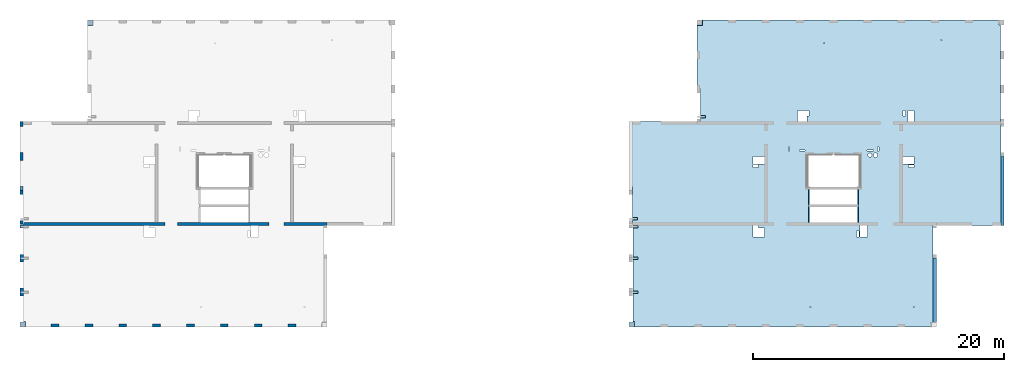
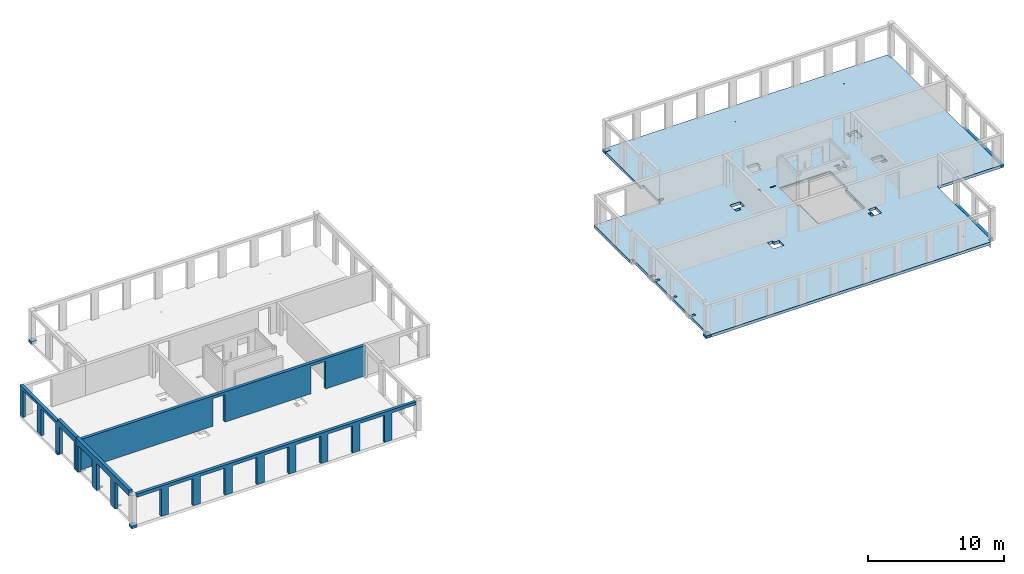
# One storey, part 2 of 8: 8 slabs, 4 walls, 53 openings.
"""IFC2X3 building model written with IfcOpenShell, lengths in millimetres."""

from ifc_helpers import new_model, entity, si_unit, converted_unit, derived_unit, direction, frame, frame_2d, origin, origin_2d_with_axis, place, context, subcontext, project, spatial, polyline, rectangle, circle, outline, extrude, material, layer, layer_set, layer_usage, type_object, element, save


model = new_model("IFC2X3")

# Units and contexts
model_context = context("Model", 3, precision=0.01, world=origin(), true_north=direction((6.12303176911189e-17, 1.0)))
body_context = subcontext(model_context, "Body", "Model", "MODEL_VIEW")
ifc_project = project(units=[si_unit("LENGTHUNIT", "METRE", prefix="MILLI"), si_unit("AREAUNIT", "SQUARE_METRE"), si_unit("VOLUMEUNIT", "CUBIC_METRE"), converted_unit("PLANEANGLEUNIT", "DEGREE", entity("IfcRatioMeasure", 0.0174532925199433), si_unit("PLANEANGLEUNIT", "RADIAN"), dimensions=[0, 0, 0, 0, 0, 0, 0]), si_unit("MASSUNIT", "GRAM", prefix="KILO"), derived_unit("MASSDENSITYUNIT", [(si_unit("MASSUNIT", "GRAM", prefix="KILO"), 1), (si_unit("LENGTHUNIT", "METRE"), -3)]), si_unit("TIMEUNIT", "SECOND"), si_unit("FREQUENCYUNIT", "HERTZ"), si_unit("THERMODYNAMICTEMPERATUREUNIT", "DEGREE_CELSIUS"), derived_unit("THERMALTRANSMITTANCEUNIT", [(si_unit("MASSUNIT", "GRAM", prefix="KILO"), 1), (si_unit("THERMODYNAMICTEMPERATUREUNIT", "KELVIN"), -1), (si_unit("TIMEUNIT", "SECOND"), -3)]), derived_unit("VOLUMETRICFLOWRATEUNIT", [(si_unit("LENGTHUNIT", "METRE"), 3), (si_unit("TIMEUNIT", "SECOND"), -1)]), si_unit("ELECTRICCURRENTUNIT", "AMPERE"), si_unit("ELECTRICVOLTAGEUNIT", "VOLT"), si_unit("POWERUNIT", "WATT"), si_unit("FORCEUNIT", "NEWTON", prefix="KILO"), si_unit("ILLUMINANCEUNIT", "LUX"), si_unit("LUMINOUSFLUXUNIT", "LUMEN"), si_unit("LUMINOUSINTENSITYUNIT", "CANDELA"), derived_unit("USERDEFINED", [(si_unit("MASSUNIT", "GRAM", prefix="KILO"), -1), (si_unit("LENGTHUNIT", "METRE"), -2), (si_unit("TIMEUNIT", "SECOND"), 3), (si_unit("LUMINOUSFLUXUNIT", "LUMEN"), 1)]), derived_unit("LINEARVELOCITYUNIT", [(si_unit("LENGTHUNIT", "METRE"), 1), (si_unit("TIMEUNIT", "SECOND"), -1)]), si_unit("PRESSUREUNIT", "PASCAL"), derived_unit("USERDEFINED", [(si_unit("LENGTHUNIT", "METRE"), -2), (si_unit("MASSUNIT", "GRAM", prefix="KILO"), 1), (si_unit("TIMEUNIT", "SECOND"), -2)])], contexts=[model_context])

# Site, building, storey
site_placement = place(None, origin())
site = spatial("IfcSite", under=ifc_project, at=site_placement, Name="Default", CompositionType="ELEMENT")
building_placement = place(site_placement, origin())
building = spatial("IfcBuilding", under=site, at=building_placement, Name="niet gebruiken", CompositionType="ELEMENT")
storey_placement = place(building_placement, frame((0.0, 0.0, 48240.0)))
storey = spatial("IfcBuildingStorey", under=building, at=storey_placement, Name="16 zestiende verdieping", CompositionType="ELEMENT", Elevation=48240.0)

# Slab, openings
ifc_material_1 = material(Name="NLRS_f2_beton ihwg")
ifc_layer_1 = layer(ifc_material_1, 250.0)
ifc_layer_set_1 = layer_set([ifc_layer_1], Name="Floor:NLRS_23.21_FL_beton ihwg d=250_gen")
ifc_layer_usage_1 = layer_usage(ifc_layer_set_1, "AXIS3", "POSITIVE", 0.0)
slab_1_placement = place(storey_placement, frame((75750.0, 28756.0, -340.0)))
slab_1 = element("IfcSlab", 1, at=slab_1_placement, inside=storey, material=ifc_layer_usage_1, Name="Floor:NLRS_23.21_FL_beton ihwg d=250_gen", ObjectType="Floor:NLRS_23.21_FL_beton ihwg d=250_gen", PredefinedType="FLOOR", context=body_context, shape_type="SweptSolid", body=[
    extrude(outline(polyline([(9119.99996701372, 12250.0), (-14540.0, 12250.0), (-14540.0, 11840.0), (-14680.0, 11840.0), (-14680.0, 4060.0), (-14700.0, 4060.0), (-14700.0, -4150.0), (-9300.0, -4150.0), (-9300.0, -11890.0), (-9140.0, -11890.0), (-9140.0, -12250.0), (14520.0, -12250.0), (14520.0, -11820.0), (14660.0, -11820.0), (14660.0, -4060.0), (14680.0, -4060.0), (14680.0, -1040.0), (14950.0, -1040.0), (14950.0, 4150.0), (9280.0, 4150.0), (9280.0, 6750.0), (9550.0, 6750.0), (9550.0, 11820.0), (9119.99996701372, 11820.0), (9119.99996701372, 12250.0)])), frame((14700.0, 12250.0, 250.0), z_axis=(0.0, 0.0, -1.0), x_axis=(-1.0, 0.0, 0.0)), (0.0, 0.0, 1.0), 250.000000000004),
])
opening_1_placement = place(storey_placement, frame((75750.0, 28756.0, -340.0)))
element("IfcOpeningElement", 2, at=opening_1_placement, cuts=slab_1, ObjectType="Opening", context=body_context, shape_type="SweptSolid", body=[
    extrude(circle(Radius=37.5, at=frame_2d((-7750.0, -10650.0), x_axis=(1.0, 0.0))), frame((14700.0, 12250.0, 250.0), z_axis=(0.0, 0.0, -1.0), x_axis=(-1.0, 0.0, 0.0)), (0.0, 0.0, 1.0), 250.000000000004),
])
opening_2_placement = place(storey_placement, frame((75750.0, 28756.0, -340.0)))
element("IfcOpeningElement", 3, at=opening_2_placement, cuts=slab_1, ObjectType="Opening", context=body_context, shape_type="SweptSolid", body=[
    extrude(circle(Radius=37.5, at=frame_2d((-9950.0, 10650.0), x_axis=(1.0, 0.0))), frame((14700.0, 12250.0, 250.0), z_axis=(0.0, 0.0, -1.0), x_axis=(-1.0, 0.0, 0.0)), (0.0, 0.0, 1.0), 250.000000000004),
])
opening_3_placement = place(storey_placement, frame((75750.0, 28756.0, -340.0)))
element("IfcOpeningElement", 4, at=opening_3_placement, cuts=slab_1, ObjectType="Opening", context=body_context, shape_type="SweptSolid", body=[
    extrude(circle(Radius=37.5, at=frame_2d((-600.0, 10400.0), x_axis=(1.0, 0.0))), frame((14700.0, 12250.0, 250.0), z_axis=(0.0, 0.0, -1.0), x_axis=(-1.0, 0.0, 0.0)), (0.0, 0.0, 1.0), 250.000000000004),
])
opening_4_placement = place(storey_placement, frame((75750.0, 28756.0, -340.0)))
element("IfcOpeningElement", 5, at=opening_4_placement, cuts=slab_1, ObjectType="Opening", context=body_context, shape_type="SweptSolid", body=[
    extrude(circle(Radius=37.5, at=frame_2d((500.0, -10650.0), x_axis=(1.0, 0.0))), frame((14700.0, 12250.0, 250.0), z_axis=(0.0, 0.0, -1.0), x_axis=(-1.0, 0.0, 0.0)), (0.0, 0.0, 1.0), 250.000000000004),
])
opening_5_placement = place(slab_1_placement, origin())
element("IfcOpeningElement", 6, at=opening_5_placement, cuts=slab_1, ObjectType="Opening", context=body_context, shape_type="SweptSolid", body=[
    extrude(rectangle(XDim=109.999999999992, YDim=1220.0, at=origin_2d_with_axis()), frame((14094.9999671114, 10380.0, 210.0)), (0.0, 0.0, 1.0), 39.9999999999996),
])
opening_6_placement = place(slab_1_placement, origin())
element("IfcOpeningElement", 7, at=opening_6_placement, cuts=slab_1, ObjectType="Opening", context=body_context, shape_type="SweptSolid", body=[
    extrude(rectangle(XDim=109.999999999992, YDim=1220.0, at=origin_2d_with_axis()), frame((18005.0, 10380.0, 210.0)), (0.0, 0.0, 1.0), 39.9999999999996),
])
opening_7_placement = place(slab_1_placement, origin())
element("IfcOpeningElement", 8, at=opening_7_placement, cuts=slab_1, ObjectType="Opening", context=body_context, shape_type="SweptSolid", body=[
    extrude(rectangle(XDim=109.999999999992, YDim=1220.0, at=origin_2d_with_axis()), frame((18005.0, 8960.0, 210.0)), (0.0, 0.0, 1.0), 39.9999999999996),
])
opening_8_placement = place(slab_1_placement, origin())
element("IfcOpeningElement", 9, at=opening_8_placement, cuts=slab_1, ObjectType="Opening", context=body_context, shape_type="SweptSolid", body=[
    extrude(rectangle(XDim=109.999999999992, YDim=1220.0, at=origin_2d_with_axis()), frame((14094.9999671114, 8960.0, 210.0)), (0.0, 0.0, 1.0), 39.9999999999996),
])
opening_9_placement = place(slab_1_placement, origin())
element("IfcOpeningElement", 10, at=opening_9_placement, cuts=slab_1, ObjectType="Opening", context=body_context, shape_type="SweptSolid", body=[
    extrude(rectangle(XDim=400.000000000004, YDim=200.000000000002, at=origin_2d_with_axis()), frame((220.0, 8630.0, 220.0)), (0.0, 0.0, 1.0), 30.0000000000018),
])
opening_10_placement = place(slab_1_placement, origin())
element("IfcOpeningElement", 11, at=opening_10_placement, cuts=slab_1, ObjectType="Opening", context=body_context, shape_type="SweptSolid", body=[
    extrude(rectangle(XDim=200.000000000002, YDim=400.000000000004, at=origin_2d_with_axis()), frame((240.0, 8000.0, 220.0), z_axis=(0.0, 0.0, 1.0), x_axis=(0.0, -1.0, 0.0)), (0.0, 0.0, 1.0), 30.0000000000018),
])
opening_11_placement = place(slab_1_placement, origin())
element("IfcOpeningElement", 12, at=opening_11_placement, cuts=slab_1, ObjectType="Opening", context=body_context, shape_type="SweptSolid", body=[
    extrude(rectangle(XDim=200.000000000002, YDim=400.000000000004, at=origin_2d_with_axis()), frame((240.0, 5500.0, 220.0), z_axis=(0.0, 0.0, 1.0), x_axis=(0.0, -1.0, 0.0)), (0.0, 0.0, 1.0), 30.0000000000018),
])
opening_12_placement = place(slab_1_placement, origin())
element("IfcOpeningElement", 13, at=opening_12_placement, cuts=slab_1, ObjectType="Opening", context=body_context, shape_type="SweptSolid", body=[
    extrude(rectangle(XDim=200.000000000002, YDim=400.000000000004, at=origin_2d_with_axis()), frame((240.0, 2800.0, 220.0), z_axis=(0.0, 0.0, 1.0), x_axis=(0.0, -1.0, 0.0)), (0.0, 0.0, 1.0), 30.0000000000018),
])
opening_13_placement = place(slab_1_placement, origin())
element("IfcOpeningElement", 14, at=opening_13_placement, cuts=slab_1, ObjectType="Opening", context=body_context, shape_type="SweptSolid", body=[
    extrude(rectangle(XDim=399.999999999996, YDim=199.999999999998, at=origin_2d_with_axis()), frame((5620.0, 16765.0, 220.0)), (0.0, 0.0, 1.0), 30.0000000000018),
])
opening_14_placement = place(slab_1_placement, origin())
element("IfcOpeningElement", 15, at=opening_14_placement, cuts=slab_1, ObjectType="Opening", context=body_context, shape_type="SweptSolid", body=[
    extrude(rectangle(XDim=900.000000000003, YDim=730.000000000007, at=origin_2d_with_axis()), frame((13550.0, 16850.0, 0.0), z_axis=(0.0, 0.0, 1.0), x_axis=(0.0, 1.0, 0.0)), (0.0, 0.0, 1.0), 250.000000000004),
])
opening_15_placement = place(slab_1_placement, origin())
element("IfcOpeningElement", 16, at=opening_15_placement, cuts=slab_1, ObjectType="Opening", context=body_context, shape_type="SweptSolid", body=[
    extrude(rectangle(XDim=169.999999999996, YDim=450.000000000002, at=origin_2d_with_axis()), frame((14000.0, 17075.0, 0.0), z_axis=(0.0, 0.0, 1.0), x_axis=(-1.0, 0.0, 0.0)), (0.0, 0.0, 1.0), 250.000000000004),
])
opening_16_placement = place(slab_1_placement, origin())
element("IfcOpeningElement", 17, at=opening_16_placement, cuts=slab_1, ObjectType="Opening", context=body_context, shape_type="SweptSolid", body=[
    extrude(rectangle(XDim=900.000000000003, YDim=700.000000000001, at=origin_2d_with_axis()), frame((10075.0, 7550.0, 0.0), z_axis=(0.0, 0.0, 1.0), x_axis=(-1.0, 0.0, 0.0)), (0.0, 0.0, 1.0), 250.000000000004),
])
opening_17_placement = place(slab_1_placement, origin())
element("IfcOpeningElement", 18, at=opening_17_placement, cuts=slab_1, ObjectType="Opening", context=body_context, shape_type="SweptSolid", body=[
    extrude(rectangle(XDim=200.000000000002, YDim=450.000000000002, at=origin_2d_with_axis()), frame((9850.0, 8000.0, 0.0), z_axis=(0.0, 0.0, 1.0), x_axis=(0.0, -1.0, 0.0)), (0.0, 0.0, 1.0), 250.000000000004),
])
opening_18_placement = place(slab_1_placement, origin())
element("IfcOpeningElement", 19, at=opening_18_placement, cuts=slab_1, ObjectType="Opening", context=body_context, shape_type="SweptSolid", body=[
    extrude(rectangle(XDim=900.000000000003, YDim=600.000000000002, at=origin_2d_with_axis()), frame((10075.0, 13330.0, 0.0), z_axis=(0.0, 0.0, 1.0), x_axis=(-1.0, 0.0, 0.0)), (0.0, 0.0, 1.0), 250.000000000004),
])
opening_19_placement = place(slab_1_placement, origin())
element("IfcOpeningElement", 20, at=opening_19_placement, cuts=slab_1, ObjectType="Opening", context=body_context, shape_type="SweptSolid", body=[
    extrude(rectangle(XDim=900.000000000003, YDim=500.000000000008, at=origin_2d_with_axis()), frame((22225.0, 16850.0, 0.0), z_axis=(0.0, 0.0, 1.0), x_axis=(0.0, 1.0, 0.0)), (0.0, 0.0, 1.0), 250.000000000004),
])
opening_20_placement = place(slab_1_placement, origin())
element("IfcOpeningElement", 21, at=opening_20_placement, cuts=slab_1, ObjectType="Opening", context=body_context, shape_type="SweptSolid", body=[
    extrude(rectangle(XDim=899.999999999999, YDim=600.000000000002, at=origin_2d_with_axis()), frame((18479.9818996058, 7650.0, 0.0), z_axis=(0.0, 0.0, 1.0), x_axis=(0.0, 1.0, 0.0)), (0.0, 0.0, 1.0), 250.000000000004),
])
opening_21_placement = place(slab_1_placement, origin())
element("IfcOpeningElement", 22, at=opening_21_placement, cuts=slab_1, ObjectType="Opening", context=body_context, shape_type="SweptSolid", body=[
    extrude(rectangle(XDim=900.000000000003, YDim=600.000000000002, at=origin_2d_with_axis()), frame((22025.0, 13330.0, 0.0), z_axis=(0.0, 0.0, 1.0), x_axis=(-1.0, 0.0, 0.0)), (0.0, 0.0, 1.0), 250.000000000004),
])
opening_22_placement = place(slab_1_placement, origin())
element("IfcOpeningElement", 23, at=opening_22_placement, cuts=slab_1, ObjectType="Opening", context=body_context, shape_type="SweptSolid", body=[
    extrude(rectangle(XDim=1760.00000000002, YDim=23.0000000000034, at=origin_2d_with_axis()), frame((14994.9998491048, 13751.5, 180.0)), (0.0, 0.0, 1.0), 40.0000000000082),
])
opening_23_placement = place(slab_1_placement, origin())
element("IfcOpeningElement", 24, at=opening_23_placement, cuts=slab_1, ObjectType="Opening", context=body_context, shape_type="SweptSolid", body=[
    extrude(rectangle(XDim=1760.0, YDim=23.0000000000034, at=origin_2d_with_axis()), frame((17104.999849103, 13751.5, 180.0)), (0.0, 0.0, 1.0), 40.0000000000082),
])
opening_24_placement = place(slab_1_placement, origin())
element("IfcOpeningElement", 25, at=opening_24_placement, cuts=slab_1, ObjectType="Opening", context=body_context, shape_type="SweptSolid", body=[
    extrude(rectangle(XDim=99.9999999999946, YDim=340.000000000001, at=origin_2d_with_axis()), frame((19615.0, 14210.0, 0.0), z_axis=(0.0, 0.0, 1.0), x_axis=(-1.0, 0.0, 0.0)), (0.0, 0.0, 1.0), 250.000000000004),
])
opening_25_placement = place(slab_1_placement, origin())
element("IfcOpeningElement", 26, at=opening_25_placement, cuts=slab_1, ObjectType="Opening", context=body_context, shape_type="SweptSolid", body=[
    extrude(rectangle(XDim=100.000000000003, YDim=490.00000000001, at=origin_2d_with_axis()), frame((18975.0, 14090.0, 0.0), z_axis=(0.0, 0.0, 1.0), x_axis=(0.0, -1.0, 0.0)), (0.0, 0.0, 1.0), 250.000000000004),
])
opening_26_placement = place(slab_1_placement, origin())
element("IfcOpeningElement", 27, at=opening_26_placement, cuts=slab_1, ObjectType="Opening", context=body_context, shape_type="SweptSolid", body=[
    extrude(rectangle(XDim=100.000000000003, YDim=440.000000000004, at=origin_2d_with_axis()), frame((13555.0, 14090.0, 0.0), z_axis=(0.0, 0.0, 1.0), x_axis=(0.0, -1.0, 0.0)), (0.0, 0.0, 1.0), 250.000000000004),
])
opening_27_placement = place(slab_1_placement, origin())
element("IfcOpeningElement", 28, at=opening_27_placement, cuts=slab_1, ObjectType="Opening", context=body_context, shape_type="SweptSolid", body=[
    extrude(rectangle(XDim=99.9999999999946, YDim=340.000000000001, at=origin_2d_with_axis()), frame((12505.0, 14210.0, 0.0), z_axis=(0.0, 0.0, 1.0), x_axis=(-1.0, 0.0, 0.0)), (0.0, 0.0, 1.0), 250.000000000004),
])
opening_28_placement = place(slab_1_placement, origin())
element("IfcOpeningElement", 29, at=opening_28_placement, cuts=slab_1, ObjectType="Opening", context=body_context, shape_type="SweptSolid", body=[
    extrude(rectangle(XDim=230.0, YDim=450.000000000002, at=origin_2d_with_axis()), frame((9850.00008659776, 12845.0002270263, 0.0), z_axis=(0.0, 0.0, 1.0), x_axis=(0.0, -1.0, 0.0)), (0.0, 0.0, 1.0), 250.000000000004),
])
opening_29_placement = place(slab_1_placement, origin())
element("IfcOpeningElement", 30, at=opening_29_placement, cuts=slab_1, ObjectType="Opening", context=body_context, shape_type="SweptSolid", body=[
    extrude(rectangle(XDim=220.000000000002, YDim=450.000000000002, at=origin_2d_with_axis()), frame((21685.0, 17075.0, 0.0), z_axis=(0.0, 0.0, 1.0), x_axis=(-1.0, 0.0, 0.0)), (0.0, 0.0, 1.0), 250.000000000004),
])
opening_30_placement = place(slab_1_placement, origin())
element("IfcOpeningElement", 31, at=opening_30_placement, cuts=slab_1, ObjectType="Opening", context=body_context, shape_type="SweptSolid", body=[
    extrude(rectangle(XDim=220.000000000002, YDim=450.000000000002, at=origin_2d_with_axis()), frame((22250.0, 12840.0, 0.0), z_axis=(0.0, 0.0, 1.0), x_axis=(0.0, -1.0, 0.0)), (0.0, 0.0, 1.0), 250.000000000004),
])
opening_31_placement = place(slab_1_placement, origin())
element("IfcOpeningElement", 32, at=opening_31_placement, cuts=slab_1, ObjectType="Opening", context=body_context, shape_type="SweptSolid", body=[
    extrude(rectangle(XDim=220.000000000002, YDim=450.000000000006, at=origin_2d_with_axis()), frame((17990.0, 7425.0, 0.0)), (0.0, 0.0, 1.0), 250.000000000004),
])
opening_32_placement = place(slab_1_placement, origin())
element("IfcOpeningElement", 33, at=opening_32_placement, cuts=slab_1, ObjectType="Opening", context=body_context, shape_type="SweptSolid", body=[
    extrude(circle(Radius=177.5, at=origin_2d_with_axis()), frame((19400.0, 13720.0, 0.0)), (0.0, 0.0, 1.0), 250.000000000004),
])
opening_33_placement = place(slab_1_placement, origin())
element("IfcOpeningElement", 34, at=opening_33_placement, cuts=slab_1, ObjectType="Opening", context=body_context, shape_type="SweptSolid", body=[
    extrude(circle(Radius=157.5, at=origin_2d_with_axis()), frame((18950.0, 13720.0, 0.0)), (0.0, 0.0, 1.0), 250.000000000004),
])
opening_34_placement = place(slab_1_placement, frame((16050.0, 10378.7499999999, 250.0)))
element("IfcOpeningElement", 35, at=opening_34_placement, cuts=slab_1, Name="Floor:NLRS_23.21_FL_beton ihwg d=250_gen:2", ObjectType="Opening", context=body_context, shape_type="SweptSolid", body=[
    extrude(outline(polyline([(-1899.99998355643, -2028.75), (1900.00001644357, -2028.75), (1900.00001644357, -808.749999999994), (1999.99998355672, -808.749999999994), (1999.99998355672, -608.749999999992), (1900.00001644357, -608.749999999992), (1900.00001644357, 751.250000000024), (2134.99998355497, 751.250000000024), (2134.99998355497, 3361.24999999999), (-2135.0000164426, 3361.24999999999), (-2135.0000164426, 751.250000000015), (-1899.99998355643, 751.250000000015), (-1899.99998355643, -608.750000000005), (-2000.00001644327, -608.750000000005), (-2000.00001644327, -808.750000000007), (-1899.99998355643, -808.750000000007), (-1899.99998355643, -2028.75)])), frame((0.0, 0.0, 0.0), z_axis=(0.0, 0.0, -1.0), x_axis=(-1.0, 0.0, 0.0)), (0.0, 0.0, 1.0), 250.000000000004),
])

# Slabs
ifc_layer_usage_2 = layer_usage(ifc_layer_set_1, "AXIS3", "POSITIVE", 0.0)
slab_2_placement = place(storey_placement, origin())
element("IfcSlab", 36, at=slab_2_placement, inside=storey, material=ifc_layer_usage_2, Name="Floor:NLRS_23.21_FL_beton ihwg d=250_gen", ObjectType="Floor:NLRS_23.21_FL_beton ihwg d=250_gen", PredefinedType="FLOOR", context=body_context, shape_type="SweptSolid", body=[
    extrude(rectangle(XDim=309.9999999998, YDim=250.000000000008, at=frame_2d((-4.33431068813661e-12, 2.16715534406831e-12), x_axis=(1.0, 0.0))), frame((27025.0, 39811.0, -90.0), z_axis=(0.0, 0.0, -1.0), x_axis=(0.0, 1.0, 0.0)), (0.0, 0.0, 1.0), 250.000000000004),
])
ifc_layer_usage_3 = layer_usage(ifc_layer_set_1, "AXIS3", "POSITIVE", 0.0)
slab_3_placement = place(storey_placement, origin())
element("IfcSlab", 37, at=slab_3_placement, inside=storey, material=ifc_layer_usage_3, Name="Floor:NLRS_23.21_FL_beton ihwg d=250_gen", ObjectType="Floor:NLRS_23.21_FL_beton ihwg d=250_gen", PredefinedType="FLOOR", context=body_context, shape_type="SweptSolid", body=[
    extrude(rectangle(XDim=5140.00000000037, YDim=250.000065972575, at=frame_2d((-2.27373675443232e-12, 0.0), x_axis=(1.0, 0.0))), frame((99875.0, 31686.0, -90.0), z_axis=(0.0, 0.0, -1.0), x_axis=(0.0, 1.0, 0.0)), (0.0, 0.0, 1.0), 250.000000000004),
])
ifc_layer_usage_4 = layer_usage(ifc_layer_set_1, "AXIS3", "POSITIVE", 0.0)
slab_4_placement = place(storey_placement, origin())
element("IfcSlab", 38, at=slab_4_placement, inside=storey, material=ifc_layer_usage_4, Name="Floor:NLRS_23.21_FL_beton ihwg d=250_gen", ObjectType="Floor:NLRS_23.21_FL_beton ihwg d=250_gen", PredefinedType="FLOOR", context=body_context, shape_type="SweptSolid", body=[
    extrude(rectangle(XDim=5500.00000000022, YDim=250.000000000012, at=origin_2d_with_axis()), frame((105275.0, 39606.0, -90.0), z_axis=(0.0, 0.0, -1.0), x_axis=(0.0, 1.0, 0.0)), (0.0, 0.0, 1.0), 250.000000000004),
])
ifc_layer_usage_5 = layer_usage(ifc_layer_set_1, "AXIS3", "POSITIVE", 0.0)
slab_5_placement = place(storey_placement, origin())
element("IfcSlab", 39, at=slab_5_placement, inside=storey, material=ifc_layer_usage_5, Name="Floor:NLRS_23.21_FL_beton ihwg d=250_gen", ObjectType="Floor:NLRS_23.21_FL_beton ihwg d=250_gen", PredefinedType="FLOOR", context=body_context, shape_type="SweptSolid", body=[
    extrude(outline(polyline([(-280.0, -240.0), (130.0, -240.0), (130.0, 50.0), (150.0, 50.0), (150.0, 190.0), (-280.0, 190.0), (-280.0, -240.0)])), frame((75740.0, 29036.0, -90.0), z_axis=(0.0, 0.0, -1.0), x_axis=(0.0, 1.0, 0.0)), (0.0, 0.0, 1.0), 250.000000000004),
])
ifc_layer_usage_6 = layer_usage(ifc_layer_set_1, "AXIS3", "POSITIVE", 0.0)
slab_6_placement = place(storey_placement, origin())
element("IfcSlab", 40, at=slab_6_placement, inside=storey, material=ifc_layer_usage_6, Name="Floor:NLRS_23.21_FL_beton ihwg d=250_gen", ObjectType="Floor:NLRS_23.21_FL_beton ihwg d=250_gen", PredefinedType="FLOOR", context=body_context, shape_type="SweptSolid", body=[
    extrude(outline(polyline([(-280.0, -240.0), (130.0, -240.0), (130.0, 50.0), (150.0, 50.0), (150.0, 190.0), (-280.0, 190.0), (-280.0, -240.0)])), frame((27140.0, 29036.0, -90.0), z_axis=(0.0, 0.0, -1.0), x_axis=(0.0, 1.0, 0.0)), (0.0, 0.0, 1.0), 250.000000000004),
])
ifc_layer_usage_7 = layer_usage(ifc_layer_set_1, "AXIS3", "POSITIVE", 0.0)
slab_7_placement = place(storey_placement, origin())
element("IfcSlab", 41, at=slab_7_placement, inside=storey, material=ifc_layer_usage_7, Name="Floor:NLRS_23.21_FL_beton ihwg d=250_gen", ObjectType="Floor:NLRS_23.21_FL_beton ihwg d=250_gen", PredefinedType="FLOOR", context=body_context, shape_type="SweptSolid", body=[
    extrude(rectangle(XDim=429.999999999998, YDim=430.000032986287, at=frame_2d((4.33431068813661e-12, 0.0), x_axis=(1.0, 0.0))), frame((81115.0, 53041.0, -90.0), z_axis=(0.0, 0.0, -1.0), x_axis=(0.0, 1.0, 0.0)), (0.0, 0.0, 1.0), 250.000000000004),
])
ifc_layer_usage_8 = layer_usage(ifc_layer_set_1, "AXIS3", "POSITIVE", 0.0)
slab_8_placement = place(storey_placement, origin())
element("IfcSlab", 42, at=slab_8_placement, inside=storey, material=ifc_layer_usage_8, Name="Floor:NLRS_23.21_FL_beton ihwg d=250_gen", ObjectType="Floor:NLRS_23.21_FL_beton ihwg d=250_gen", PredefinedType="FLOOR", context=body_context, shape_type="SweptSolid", body=[
    extrude(rectangle(XDim=429.999999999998, YDim=430.000032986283, at=frame_2d((4.33431068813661e-12, 2.1600499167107e-12), x_axis=(1.0, 0.0))), frame((32515.0, 53041.0, -90.0), z_axis=(0.0, 0.0, -1.0), x_axis=(0.0, 1.0, 0.0)), (0.0, 0.0, 1.0), 250.000000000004),
])

# Wall, openings
ifc_layer_2 = layer(ifc_material_1, 250.0)
ifc_layer_set_2 = layer_set([ifc_layer_2], Name="Basic Wall:NLRS_22.21_WA_beton ihwg d=250_gen")
ifc_layer_usage_9 = layer_usage(ifc_layer_set_2, "AXIS2", "NEGATIVE", 125.0)
wall_type_1 = type_object("IfcWallType", Name="Basic Wall:NLRS_22.21_WA_beton ihwg d=250_gen", PredefinedType="STANDARD", material=ifc_layer_set_2)
wall_1_placement = place(storey_placement, frame((27170.0, 36981.0, -90.0)))
wall_1 = element("IfcWallStandardCase", 43, at=wall_1_placement, inside=storey, type_object=wall_type_1, material=ifc_layer_usage_9, Name="Basic Wall:NLRS_22.21_WA_beton ihwg d=250_gen", ObjectType="Basic Wall:NLRS_22.21_WA_beton ihwg d=250_gen", context=body_context, shape_type="SweptSolid", body=[
    extrude(rectangle(XDim=24230.0000000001, YDim=250.000000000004, at=frame_2d((12115.0, 0.0), x_axis=(-1.0, 0.0))), origin(), (0.0, 0.0, 1.0), 2719.99999999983),
])
opening_35_placement = place(wall_1_placement, origin())
element("IfcOpeningElement", 44, at=opening_35_placement, cuts=wall_1, Name="Basic Wall:NLRS_22.21_WA_beton ihwg d=250_gen", ObjectType="Opening", context=body_context, shape_type="SweptSolid", body=[
    extrude(rectangle(XDim=2470.0, YDim=1225.0, at=frame_2d((0.0, -4.43378667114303e-12), x_axis=(0.0, 1.0))), frame((20192.500000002, -1399.0, 1235.0), z_axis=(0.0, 1.0, 0.0), x_axis=(-1.0, 0.0, 0.0)), (0.0, 0.0, 1.0), 3048.0),
])
opening_36_placement = place(wall_1_placement, origin())
element("IfcOpeningElement", 45, at=opening_36_placement, cuts=wall_1, Name="Basic Wall:NLRS_22.21_WA_beton ihwg d=250_gen", ObjectType="Opening", context=body_context, shape_type="SweptSolid", body=[
    extrude(rectangle(XDim=2470.0, YDim=1006.0, at=frame_2d((2.1600499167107e-12, -4.43378667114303e-12), x_axis=(0.0, 1.0))), frame((11782.0, -1399.0, 1235.0), z_axis=(0.0, 1.0, 0.0), x_axis=(-1.0, 0.0, 0.0)), (0.0, 0.0, 1.0), 3048.0),
])
opening_37_placement = place(wall_1_placement, origin())
element("IfcOpeningElement", 46, at=opening_37_placement, cuts=wall_1, Name="Basic Wall:NLRS_22.21_WA_beton ihwg d=250_gen", ObjectType="Recess", context=body_context, shape_type="SweptSolid", body=[
    extrude(rectangle(XDim=55000.0, YDim=20.0000000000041, at=frame_2d((0.0, -2.16626716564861e-12), x_axis=(1.0, 0.0))), frame((10.0, -140.0, -8140.0), z_axis=(0.0, 1.0, 0.0), x_axis=(0.0, 0.0, -1.0)), (0.0, 0.0, 1.0), 124.999999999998),
])

ifc_material_2 = material(Name="NLRS_f2_beton prefab")
ifc_layer_3 = layer(ifc_material_2, 250.0)
ifc_layer_set_3 = layer_set([ifc_layer_3], Name="Basic Wall:NLRS_21.21_WA_beton prefab d=250_gen")
ifc_layer_usage_10 = layer_usage(ifc_layer_set_3, "AXIS2", "NEGATIVE", 125.0)
wall_type_2 = type_object("IfcWallType", Name="Basic Wall:NLRS_21.21_WA_beton prefab d=250_gen", PredefinedType="STANDARD", material=ifc_layer_set_3)
wall_2_placement = place(storey_placement, frame((27025.0, 45156.0, -70.0), z_axis=(0.0, 0.0, 1.0), x_axis=(0.0, -1.0, 0.0)))
wall_2 = element("IfcWallStandardCase", 47, at=wall_2_placement, inside=storey, type_object=wall_type_2, material=ifc_layer_usage_10, Name="Basic Wall:NLRS_21.21_WA_beton prefab d=250_gen", ObjectType="Basic Wall:NLRS_21.21_WA_beton prefab d=250_gen", context=body_context, shape_type="SweptSolid", body=[
    extrude(rectangle(XDim=8189.99999999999, YDim=250.000000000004, at=frame_2d((4095.0, 0.0), x_axis=(-1.0, 0.0))), origin(), (0.0, 0.0, 1.0), 2949.99999999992),
])
opening_38_placement = place(wall_2_placement, origin())
element("IfcOpeningElement", 48, at=opening_38_placement, cuts=wall_2, Name="Basic Wall:NLRS_21.21_WA_beton prefab d=250_gen", ObjectType="Opening", context=body_context, shape_type="SweptSolid", body=[
    extrude(rectangle(XDim=2420.0, YDim=2080.0, at=frame_2d((0.0, 0.0), x_axis=(0.0, 1.0))), frame((1450.0, -1399.0, 1210.0), z_axis=(0.0, 1.0, 0.0), x_axis=(-1.0, 0.0, 0.0)), (0.0, 0.0, 1.0), 3048.0),
])
opening_39_placement = place(wall_2_placement, origin())
element("IfcOpeningElement", 49, at=opening_39_placement, cuts=wall_2, Name="Basic Wall:NLRS_21.21_WA_beton prefab d=250_gen", ObjectType="Opening", context=body_context, shape_type="SweptSolid", body=[
    extrude(rectangle(XDim=2420.0, YDim=2080.0, at=frame_2d((0.0, 0.0), x_axis=(0.0, 1.0))), frame((4150.0, -1399.0, 1210.0), z_axis=(0.0, 1.0, 0.0), x_axis=(-1.0, 0.0, 0.0)), (0.0, 0.0, 1.0), 3048.0),
])
opening_40_placement = place(wall_2_placement, origin())
element("IfcOpeningElement", 50, at=opening_40_placement, cuts=wall_2, Name="Basic Wall:NLRS_21.21_WA_beton prefab d=250_gen", ObjectType="Opening", context=body_context, shape_type="SweptSolid", body=[
    extrude(rectangle(XDim=2420.0, YDim=2080.0, at=frame_2d((0.0, 0.0), x_axis=(0.0, 1.0))), frame((6850.0, -1399.0, 1210.0), z_axis=(0.0, 1.0, 0.0), x_axis=(-1.0, 0.0, 0.0)), (0.0, 0.0, 1.0), 3048.0),
])
opening_41_placement = place(wall_2_placement, origin())
element("IfcOpeningElement", 51, at=opening_41_placement, cuts=wall_2, Name="Basic Wall:NLRS_21.21_WA_beton prefab d=250_gen", ObjectType="Opening", context=body_context, shape_type="SweptSolid", body=[
    extrude(rectangle(XDim=250.000000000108, YDim=5499.99999999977, at=frame_2d((0.0, 4.32720526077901e-12), x_axis=(0.0, 1.0))), frame((2750.0, 125.0, 2825.0), z_axis=(0.0, -1.0, 0.0), x_axis=(-1.0, 0.0, 0.0)), (0.0, 0.0, 1.0), 250.0),
])

ifc_layer_4 = layer(ifc_material_1, 250.0)
ifc_layer_set_4 = layer_set([ifc_layer_4], Name="Basic Wall:NLRS_21.21_WA_beton ihwg d=250_gen")
ifc_layer_usage_11 = layer_usage(ifc_layer_set_4, "AXIS2", "NEGATIVE", 125.0)
wall_type_3 = type_object("IfcWallType", Name="Basic Wall:NLRS_21.21_WA_beton ihwg d=250_gen", PredefinedType="STANDARD", material=ifc_layer_set_4)
wall_3_placement = place(storey_placement, frame((27330.0, 28881.0, -90.0)))
wall_3 = element("IfcWallStandardCase", 52, at=wall_3_placement, inside=storey, type_object=wall_type_3, material=ifc_layer_usage_11, Name="Basic Wall:NLRS_21.21_WA_beton ihwg d=250_gen", ObjectType="Basic Wall:NLRS_21.21_WA_beton ihwg d=250_gen", context=body_context, shape_type="SweptSolid", body=[
    extrude(rectangle(XDim=23640.0000000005, YDim=250.000000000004, at=frame_2d((11820.0000000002, -8.66862137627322e-13), x_axis=(-1.0, 0.0))), origin(), (0.0, 0.0, 1.0), 2720.00000000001),
])
opening_42_placement = place(wall_3_placement, origin())
element("IfcOpeningElement", 53, at=opening_42_placement, cuts=wall_3, Name="Basic Wall:NLRS_21.21_WA_beton ihwg d=250_gen", ObjectType="Opening", context=body_context, shape_type="SweptSolid", body=[
    extrude(rectangle(XDim=2440.0, YDim=2080.0, at=frame_2d((0.0, 0.0), x_axis=(0.0, 1.0))), frame((22620.0, -1399.0, 1220.0), z_axis=(0.0, 1.0, 0.0), x_axis=(-1.0, 0.0, 0.0)), (0.0, 0.0, 1.0), 3048.0),
])
opening_43_placement = place(wall_3_placement, origin())
element("IfcOpeningElement", 54, at=opening_43_placement, cuts=wall_3, Name="Basic Wall:NLRS_21.21_WA_beton ihwg d=250_gen", ObjectType="Opening", context=body_context, shape_type="SweptSolid", body=[
    extrude(rectangle(XDim=2440.0, YDim=2080.0, at=frame_2d((0.0, 0.0), x_axis=(0.0, 1.0))), frame((19920.0, -1399.0, 1220.0), z_axis=(0.0, 1.0, 0.0), x_axis=(-1.0, 0.0, 0.0)), (0.0, 0.0, 1.0), 3048.0),
])
opening_44_placement = place(wall_3_placement, origin())
element("IfcOpeningElement", 55, at=opening_44_placement, cuts=wall_3, Name="Basic Wall:NLRS_21.21_WA_beton ihwg d=250_gen", ObjectType="Opening", context=body_context, shape_type="SweptSolid", body=[
    extrude(rectangle(XDim=2440.0, YDim=2080.0, at=frame_2d((0.0, 0.0), x_axis=(0.0, 1.0))), frame((17220.0, -1399.0, 1220.0), z_axis=(0.0, 1.0, 0.0), x_axis=(-1.0, 0.0, 0.0)), (0.0, 0.0, 1.0), 3048.0),
])
opening_45_placement = place(wall_3_placement, origin())
element("IfcOpeningElement", 56, at=opening_45_placement, cuts=wall_3, Name="Basic Wall:NLRS_21.21_WA_beton ihwg d=250_gen", ObjectType="Opening", context=body_context, shape_type="SweptSolid", body=[
    extrude(rectangle(XDim=2440.0, YDim=2080.0, at=frame_2d((0.0, 0.0), x_axis=(0.0, 1.0))), frame((14520.0, -1399.0, 1220.0), z_axis=(0.0, 1.0, 0.0), x_axis=(-1.0, 0.0, 0.0)), (0.0, 0.0, 1.0), 3048.0),
])
opening_46_placement = place(wall_3_placement, origin())
element("IfcOpeningElement", 57, at=opening_46_placement, cuts=wall_3, Name="Basic Wall:NLRS_21.21_WA_beton ihwg d=250_gen", ObjectType="Opening", context=body_context, shape_type="SweptSolid", body=[
    extrude(rectangle(XDim=2440.0, YDim=2080.0, at=frame_2d((-4.32009983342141e-12, 0.0), x_axis=(0.0, 1.0))), frame((11820.0, -1399.0, 1220.0), z_axis=(0.0, 1.0, 0.0), x_axis=(-1.0, 0.0, 0.0)), (0.0, 0.0, 1.0), 3048.0),
])
opening_47_placement = place(wall_3_placement, origin())
element("IfcOpeningElement", 58, at=opening_47_placement, cuts=wall_3, Name="Basic Wall:NLRS_21.21_WA_beton ihwg d=250_gen", ObjectType="Opening", context=body_context, shape_type="SweptSolid", body=[
    extrude(rectangle(XDim=2440.0, YDim=2080.0, at=frame_2d((-2.1600499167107e-12, 0.0), x_axis=(0.0, 1.0))), frame((9120.0, -1399.0, 1220.0), z_axis=(0.0, 1.0, 0.0), x_axis=(-1.0, 0.0, 0.0)), (0.0, 0.0, 1.0), 3048.0),
])
opening_48_placement = place(wall_3_placement, origin())
element("IfcOpeningElement", 59, at=opening_48_placement, cuts=wall_3, Name="Basic Wall:NLRS_21.21_WA_beton ihwg d=250_gen", ObjectType="Opening", context=body_context, shape_type="SweptSolid", body=[
    extrude(rectangle(XDim=2440.0, YDim=2080.0, at=frame_2d((2.1600499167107e-12, 0.0), x_axis=(0.0, 1.0))), frame((6420.0, -1399.0, 1220.0), z_axis=(0.0, 1.0, 0.0), x_axis=(-1.0, 0.0, 0.0)), (0.0, 0.0, 1.0), 3048.0),
])
opening_49_placement = place(wall_3_placement, origin())
element("IfcOpeningElement", 60, at=opening_49_placement, cuts=wall_3, Name="Basic Wall:NLRS_21.21_WA_beton ihwg d=250_gen", ObjectType="Opening", context=body_context, shape_type="SweptSolid", body=[
    extrude(rectangle(XDim=2440.0, YDim=2080.0, at=frame_2d((2.1600499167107e-12, 0.0), x_axis=(0.0, 1.0))), frame((3720.0, -1399.0, 1220.0), z_axis=(0.0, 1.0, 0.0), x_axis=(-1.0, 0.0, 0.0)), (0.0, 0.0, 1.0), 3048.0),
])
opening_50_placement = place(wall_3_placement, origin())
element("IfcOpeningElement", 61, at=opening_50_placement, cuts=wall_3, Name="Basic Wall:NLRS_21.21_WA_beton ihwg d=250_gen", ObjectType="Opening", context=body_context, shape_type="SweptSolid", body=[
    extrude(rectangle(XDim=2440.0, YDim=2080.0, at=frame_2d((-2.1600499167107e-12, 0.0), x_axis=(0.0, 1.0))), frame((1020.0, -1399.0, 1220.0), z_axis=(0.0, 1.0, 0.0), x_axis=(-1.0, 0.0, 0.0)), (0.0, 0.0, 1.0), 3048.0),
])

ifc_layer_5 = layer(ifc_material_2, 270.0)
ifc_layer_set_5 = layer_set([ifc_layer_5], Name="Basic Wall:NLRS_21.21_WA_beton prefab d=270_gen")
ifc_layer_usage_12 = layer_usage(ifc_layer_set_5, "AXIS2", "NEGATIVE", 135.0)
wall_type_4 = type_object("IfcWallType", Name="Basic Wall:NLRS_21.21_WA_beton prefab d=270_gen", PredefinedType="STANDARD", material=ifc_layer_set_5)
wall_4_placement = place(storey_placement, frame((27035.0, 36946.0, -70.0), z_axis=(0.0, 0.0, 1.0), x_axis=(0.0, -1.0, 0.0)))
wall_4 = element("IfcWallStandardCase", 62, at=wall_4_placement, inside=storey, type_object=wall_type_4, material=ifc_layer_usage_12, Name="Basic Wall:NLRS_21.21_WA_beton prefab d=270_gen", ObjectType="Basic Wall:NLRS_21.21_WA_beton prefab d=270_gen", context=body_context, shape_type="SweptSolid", body=[
    extrude(rectangle(XDim=7779.99999999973, YDim=269.999999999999, at=frame_2d((3889.99999999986, 0.0), x_axis=(-1.0, 0.0))), origin(), (0.0, 0.0, 1.0), 2949.99999999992),
])
opening_51_placement = place(wall_4_placement, origin())
element("IfcOpeningElement", 63, at=opening_51_placement, cuts=wall_4, Name="Basic Wall:NLRS_21.21_WA_beton prefab d=270_gen", ObjectType="Opening", context=body_context, shape_type="SweptSolid", body=[
    extrude(rectangle(XDim=2420.0, YDim=2080.0, at=frame_2d((-2.1600499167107e-12, 0.0), x_axis=(0.0, 1.0))), frame((1340.0, -1389.0, 1210.0), z_axis=(0.0, 1.0, 0.0), x_axis=(-1.0, 0.0, 0.0)), (0.0, 0.0, 1.0), 3048.0),
])
opening_52_placement = place(wall_4_placement, origin())
element("IfcOpeningElement", 64, at=opening_52_placement, cuts=wall_4, Name="Basic Wall:NLRS_21.21_WA_beton prefab d=270_gen", ObjectType="Opening", context=body_context, shape_type="SweptSolid", body=[
    extrude(rectangle(XDim=2420.0, YDim=2080.0, at=frame_2d((2.1600499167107e-12, 0.0), x_axis=(0.0, 1.0))), frame((4040.0, -1389.0, 1210.0), z_axis=(0.0, 1.0, 0.0), x_axis=(-1.0, 0.0, 0.0)), (0.0, 0.0, 1.0), 3048.0),
])
opening_53_placement = place(wall_4_placement, origin())
element("IfcOpeningElement", 65, at=opening_53_placement, cuts=wall_4, Name="Basic Wall:NLRS_21.21_WA_beton prefab d=270_gen", ObjectType="Opening", context=body_context, shape_type="SweptSolid", body=[
    extrude(rectangle(XDim=2420.0, YDim=2080.0, at=frame_2d((2.1600499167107e-12, 0.0), x_axis=(0.0, 1.0))), frame((6740.0, -1389.0, 1210.0), z_axis=(0.0, 1.0, 0.0), x_axis=(-1.0, 0.0, 0.0)), (0.0, 0.0, 1.0), 3048.0),
])

save(model, "model.ifc")
